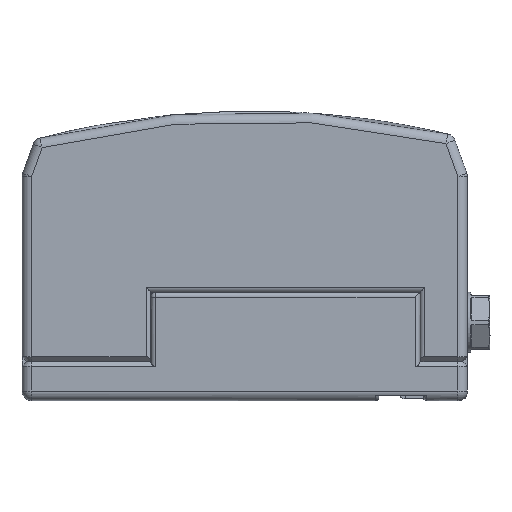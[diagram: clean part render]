
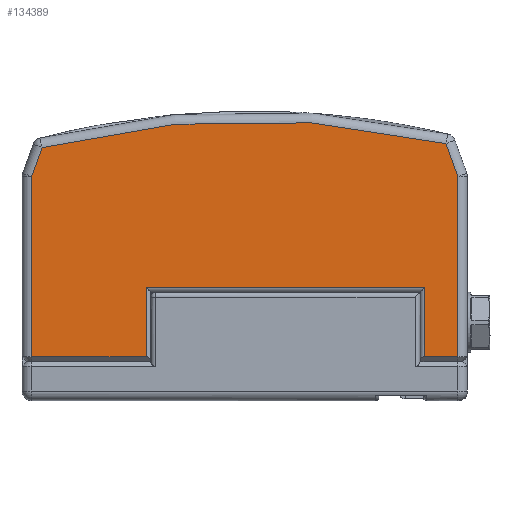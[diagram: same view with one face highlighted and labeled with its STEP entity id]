
A CAD part, front view. The second image highlights one B-rep face of the part: STEP entity #134389.
In plain terms, the highlighted planar face has unit normal (0, -1, 0).
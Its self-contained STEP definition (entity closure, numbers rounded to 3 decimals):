
#134248=CARTESIAN_POINT('',(-211.866,-150.,93.99));
#134249=VERTEX_POINT('',#134248);
#134259=CARTESIAN_POINT('',(-211.866,-150.,36.5));
#134260=VERTEX_POINT('',#134259);
#134261=CARTESIAN_POINT('',(-211.866,-150.,93.99));
#134262=DIRECTION('',(0.0,0.0,-1.0));
#134263=VECTOR('',#134262,57.49);
#134264=LINE('',#134261,#134263);
#134265=EDGE_CURVE('',#134249,#134260,#134264,.T.);
#134291=CARTESIAN_POINT('',(-307.,-150.,36.5));
#134292=VERTEX_POINT('',#134291);
#134293=CARTESIAN_POINT('',(-211.866,-150.,36.5));
#134294=DIRECTION('',(-1.0,0.0,0.0));
#134295=VECTOR('',#134294,95.134);
#134296=LINE('',#134293,#134295);
#134297=EDGE_CURVE('',#134260,#134292,#134296,.T.);
#134317=CARTESIAN_POINT('',(-124.,-150.,128.695));
#134318=DIRECTION('',(0.0,-1.0,0.0));
#134319=DIRECTION('',(0.0,0.0,-1.0));
#134320=AXIS2_PLACEMENT_3D('',#134317,#134318,#134319);
#134321=PLANE('',#134320);
#134322=ORIENTED_EDGE('',*,*,#134265,.F.);
#134323=CARTESIAN_POINT('',(19.488,-150.,93.99));
#134324=VERTEX_POINT('',#134323);
#134325=CARTESIAN_POINT('',(19.488,-150.,93.99));
#134326=DIRECTION('',(-1.0,0.0,0.0));
#134327=VECTOR('',#134326,231.355);
#134328=LINE('',#134325,#134327);
#134329=EDGE_CURVE('',#134324,#134249,#134328,.T.);
#134330=ORIENTED_EDGE('',*,*,#134329,.F.);
#134331=CARTESIAN_POINT('',(19.488,-150.,36.5));
#134332=VERTEX_POINT('',#134331);
#134333=CARTESIAN_POINT('',(19.488,-150.,36.5));
#134334=DIRECTION('',(0.0,0.0,1.0));
#134335=VECTOR('',#134334,57.49);
#134336=LINE('',#134333,#134335);
#134337=EDGE_CURVE('',#134332,#134324,#134336,.T.);
#134338=ORIENTED_EDGE('',*,*,#134337,.F.);
#134339=CARTESIAN_POINT('',(47.,-150.,36.5));
#134340=VERTEX_POINT('',#134339);
#134341=CARTESIAN_POINT('',(47.,-150.,36.5));
#134342=DIRECTION('',(-1.0,0.0,0.0));
#134343=VECTOR('',#134342,27.512);
#134344=LINE('',#134341,#134343);
#134345=EDGE_CURVE('',#134340,#134332,#134344,.T.);
#134346=ORIENTED_EDGE('',*,*,#134345,.F.);
#134347=CARTESIAN_POINT('',(47.,-150.,186.089));
#134348=VERTEX_POINT('',#134347);
#134349=CARTESIAN_POINT('',(47.,-150.,186.089));
#134350=DIRECTION('',(0.0,0.0,-1.0));
#134351=VECTOR('',#134350,149.589);
#134352=LINE('',#134349,#134351);
#134353=EDGE_CURVE('',#134348,#134340,#134352,.T.);
#134354=ORIENTED_EDGE('',*,*,#134353,.F.);
#134355=CARTESIAN_POINT('',(37.021,-150.,213.505));
#134356=VERTEX_POINT('',#134355);
#134357=CARTESIAN_POINT('',(37.021,-150.,213.505));
#134358=DIRECTION('',(0.342,0.,-0.94));
#134359=VECTOR('',#134358,29.175);
#134360=LINE('',#134357,#134359);
#134361=EDGE_CURVE('',#134356,#134348,#134360,.T.);
#134362=ORIENTED_EDGE('',*,*,#134361,.F.);
#134363=CARTESIAN_POINT('',(-298.221,-150.,210.21));
#134364=VERTEX_POINT('',#134363);
#134365=CARTESIAN_POINT('',(-124.,-150.,-459.5));
#134366=DIRECTION('',(0.0,1.0,0.0));
#134367=DIRECTION('',(-0.242,0.0,0.97));
#134368=AXIS2_PLACEMENT_3D('',#134365,#134366,#134367);
#134369=CIRCLE('',#134368,692.);
#134370=EDGE_CURVE('',#134364,#134356,#134369,.T.);
#134371=ORIENTED_EDGE('',*,*,#134370,.F.);
#134372=CARTESIAN_POINT('',(-307.,-150.,186.089));
#134373=VERTEX_POINT('',#134372);
#134374=CARTESIAN_POINT('',(-307.,-150.,186.089));
#134375=DIRECTION('',(0.342,0.0,0.94));
#134376=VECTOR('',#134375,25.668);
#134377=LINE('',#134374,#134376);
#134378=EDGE_CURVE('',#134373,#134364,#134377,.T.);
#134379=ORIENTED_EDGE('',*,*,#134378,.F.);
#134380=CARTESIAN_POINT('',(-307.,-150.,36.5));
#134381=DIRECTION('',(0.0,0.0,1.0));
#134382=VECTOR('',#134381,149.589);
#134383=LINE('',#134380,#134382);
#134384=EDGE_CURVE('',#134292,#134373,#134383,.T.);
#134385=ORIENTED_EDGE('',*,*,#134384,.F.);
#134386=ORIENTED_EDGE('',*,*,#134297,.F.);
#134387=EDGE_LOOP('',(#134322,#134330,#134338,#134346,#134354,#134362,#134371,#134379,#134385,#134386));
#134388=FACE_OUTER_BOUND('',#134387,.T.);
#134389=ADVANCED_FACE('',(#134388),#134321,.T.);
